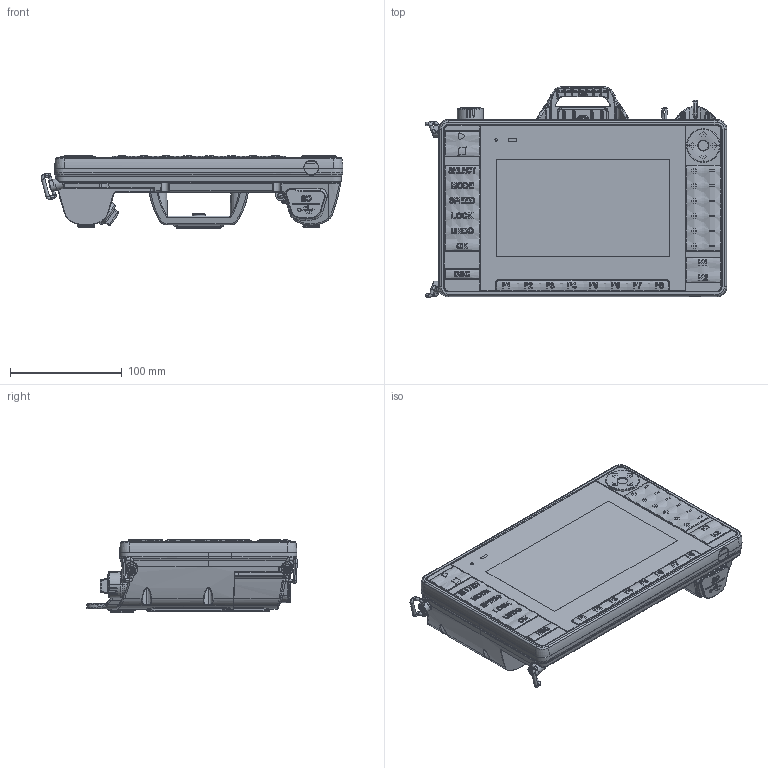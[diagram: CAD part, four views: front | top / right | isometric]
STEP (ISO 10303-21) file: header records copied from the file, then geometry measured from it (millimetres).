
FILE_DESCRIPTION (( 'STEP AP214' ), '1' );
FILE_NAME ('X7 Wired.STEP', '2025-12-18T16:57:08', ( '' ), ( '' ), 'SwSTEP 2.0', 'SolidWorks 2025', '' );
FILE_SCHEMA (( 'AUTOMOTIVE_DESIGN' ));
Products named in the file (1): X7 Wired
Bounding box: 270 x 188.46 x 65.45 mm (x, y, z)
Volume: 1456459.4 mm3; surface area: 181024.2 mm2
Topology: 2 solids, 44 shells, 7019 faces, 17509 edges, 10626 vertices
Faces by surface type: plane 2467, bspline 2296, cylinder 1370, torus 471, cone 285, sphere 130
Entity records: 303168 total; most frequent: CARTESIAN_POINT 156608, ORIENTED_EDGE 34714, DIRECTION 24523, EDGE_CURVE 17357, VERTEX_POINT 10624, AXIS2_PLACEMENT_3D 8879, EDGE_LOOP 7285, FACE_OUTER_BOUND 7019
